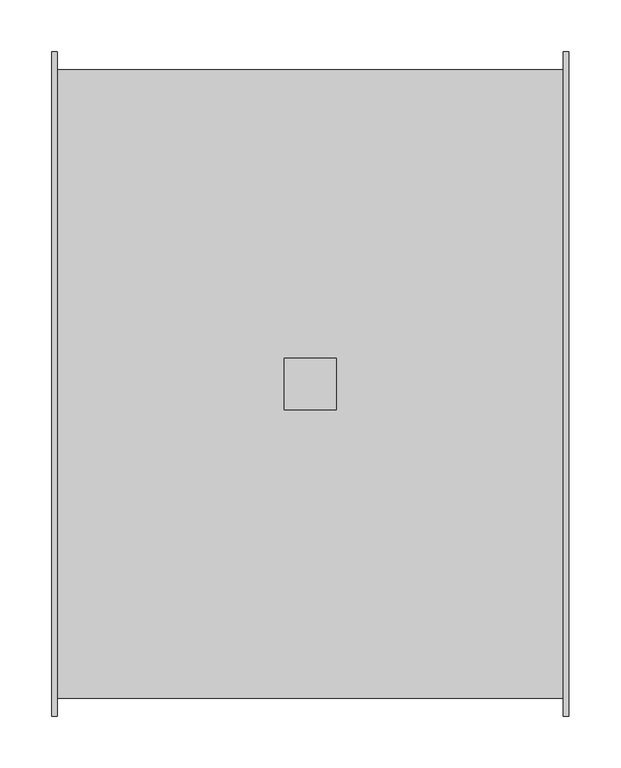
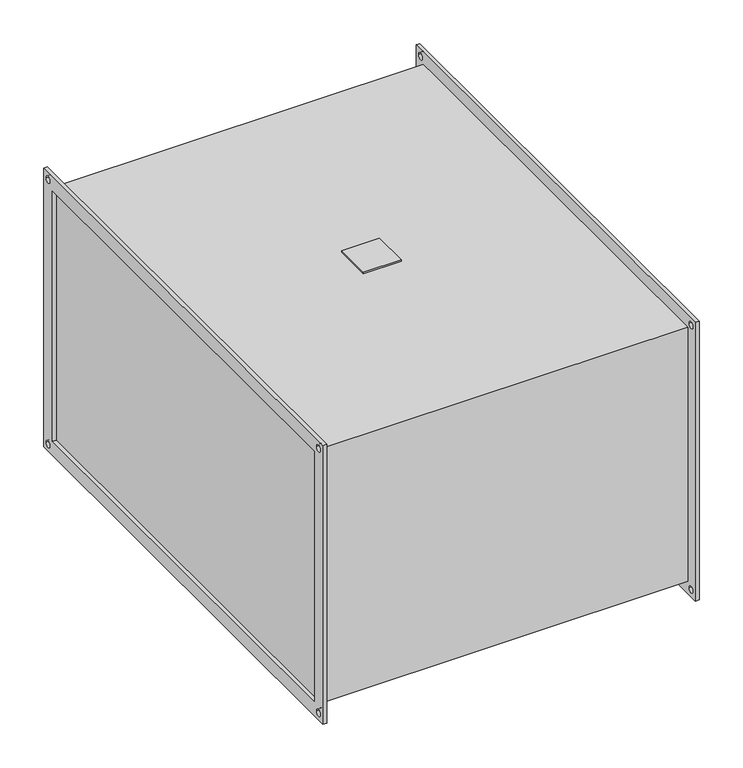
"""IFC4 building model written with IfcOpenShell, lengths in millimetres: proxy geometry, KORF_Вентилятор_WNP : WNP 60-35/28R.2D."""

from ifc_helpers import new_model, si_unit, point, frame, frame_2d, origin, place, context, project, spatial, polyline, circle_curve, trimmed, segment, composite_curve, outline, extrude, source, transform, mapped, element, save


def mechanical_equipment_9e790e20(model_context):
    return source(origin(), model_context, "Body", "SweptSolid", [
        extrude(outline(polyline([(224.0, -25.0), (224.0, 25.0), (274.0, 25.0), (274.0, -25.0), (224.0, -25.0)])), frame((0.0, 0.0, 178.0), z_axis=(0.0, 0.0, 1.0), x_axis=(1.0, 0.0, 0.0)), (0.0, 0.0, 1.0), 2.0),
        extrude(outline(polyline([(-320.0, 195.0), (320.0, 195.0), (320.0, -195.0), (-320.0, -195.0), (-320.0, 195.0)]), holes=[polyline([(-300.0, 175.0), (-300.0, -175.0), (300.0, -175.0), (300.0, 175.0), (-300.0, 175.0)]), composite_curve([segment(trimmed(circle_curve(frame_2d((310.0, 185.0)), 4.5), [point((305.5, 185.0))], [point((314.5, 185.0))], True, "CARTESIAN"), True, "CONTINUOUS"), segment(trimmed(circle_curve(frame_2d((310.0, 185.0)), 4.5), [point((314.5, 185.0))], [point((305.5, 185.0))], True, "CARTESIAN"), True, "CONTINUOUS")], self_intersect=False), composite_curve([segment(trimmed(circle_curve(frame_2d((-310.0, 185.0)), 4.5), [point((-314.5, 185.0))], [point((-305.5, 185.0))], True, "CARTESIAN"), True, "CONTINUOUS"), segment(trimmed(circle_curve(frame_2d((-310.0, 185.0)), 4.5), [point((-305.5, 185.0))], [point((-314.5, 185.0))], True, "CARTESIAN"), True, "CONTINUOUS")], self_intersect=False), composite_curve([segment(trimmed(circle_curve(frame_2d((-310.0, -185.0)), 4.5), [point((-314.5, -185.0))], [point((-305.5, -185.0))], True, "CARTESIAN"), True, "CONTINUOUS"), segment(trimmed(circle_curve(frame_2d((-310.0, -185.0)), 4.5), [point((-305.5, -185.0))], [point((-314.5, -185.0))], True, "CARTESIAN"), True, "CONTINUOUS")], self_intersect=False), composite_curve([segment(trimmed(circle_curve(frame_2d((310.0, -185.0)), 4.5), [point((305.5, -185.0))], [point((314.5, -185.0))], True, "CARTESIAN"), True, "CONTINUOUS"), segment(trimmed(circle_curve(frame_2d((310.0, -185.0)), 4.5), [point((314.5, -185.0))], [point((305.5, -185.0))], True, "CARTESIAN"), True, "CONTINUOUS")], self_intersect=False)]), frame((493.0, 0.0, 0.0), z_axis=(1.0, 0.0, 0.0), x_axis=(0.0, 1.0, 0.0)), (0.0, 0.0, 1.0), 5.0),
        extrude(outline(polyline([(-320.0, 195.0), (320.0, 195.0), (320.0, -195.0), (-320.0, -195.0), (-320.0, 195.0)]), holes=[polyline([(-300.0, 175.0), (-300.0, -175.0), (300.0, -175.0), (300.0, 175.0), (-300.0, 175.0)]), composite_curve([segment(trimmed(circle_curve(frame_2d((310.0, 185.0)), 4.5), [point((305.5, 185.0))], [point((314.5, 185.0))], True, "CARTESIAN"), True, "CONTINUOUS"), segment(trimmed(circle_curve(frame_2d((310.0, 185.0)), 4.5), [point((314.5, 185.0))], [point((305.5, 185.0))], True, "CARTESIAN"), True, "CONTINUOUS")], self_intersect=False), composite_curve([segment(trimmed(circle_curve(frame_2d((-310.0, 185.0)), 4.5), [point((-314.5, 185.0))], [point((-305.5, 185.0))], True, "CARTESIAN"), True, "CONTINUOUS"), segment(trimmed(circle_curve(frame_2d((-310.0, 185.0)), 4.5), [point((-305.5, 185.0))], [point((-314.5, 185.0))], True, "CARTESIAN"), True, "CONTINUOUS")], self_intersect=False), composite_curve([segment(trimmed(circle_curve(frame_2d((-310.0, -185.0)), 4.5), [point((-314.5, -185.0))], [point((-305.5, -185.0))], True, "CARTESIAN"), True, "CONTINUOUS"), segment(trimmed(circle_curve(frame_2d((-310.0, -185.0)), 4.5), [point((-305.5, -185.0))], [point((-314.5, -185.0))], True, "CARTESIAN"), True, "CONTINUOUS")], self_intersect=False), composite_curve([segment(trimmed(circle_curve(frame_2d((310.0, -185.0)), 4.5), [point((305.5, -185.0))], [point((314.5, -185.0))], True, "CARTESIAN"), True, "CONTINUOUS"), segment(trimmed(circle_curve(frame_2d((310.0, -185.0)), 4.5), [point((314.5, -185.0))], [point((305.5, -185.0))], True, "CARTESIAN"), True, "CONTINUOUS")], self_intersect=False)]), frame((0.0, 0.0, 0.0), z_axis=(1.0, 0.0, 0.0), x_axis=(0.0, 1.0, 0.0)), (0.0, 0.0, 1.0), 5.0),
        extrude(outline(polyline([(493.0, 303.0), (493.0, -303.0), (5.0, -303.0), (5.0, 303.0), (493.0, 303.0)])), frame((0.0, 0.0, -178.0), z_axis=(0.0, 0.0, 1.0), x_axis=(1.0, 0.0, 0.0)), (0.0, 0.0, 1.0), 356.0),
    ])


if __name__ == "__main__":
    model = new_model("IFC4")
    model_context = context("Model", 3, world=origin())
    ifc_project = project(units=[si_unit("LENGTHUNIT", "METRE", prefix="MILLI")], contexts=[model_context])
    site = spatial("IfcSite", under=ifc_project)
    building = spatial("IfcBuilding", under=site)
    placement = place(None, origin())
    mechanical_equipment_shape = mechanical_equipment_9e790e20(model_context)
    element("IfcBuildingElementProxy", 1, Name="KORF_Вентилятор_WNP : WNP 60-35/28R.2D", ObjectType="KORF_Вентилятор_WNP : WNP 60-35/28R.2D", at=placement, inside=building, context=model_context, shape_type="MappedRepresentation", body=[
        mapped(mechanical_equipment_shape, transform((0.0, 0.0, 0.0), x_axis=(1.0, 0.0, 0.0), y_axis=(0.0, 1.0, 0.0), z_axis=(0.0, 0.0, 1.0))),
    ])
    save(model, "model.ifc")
